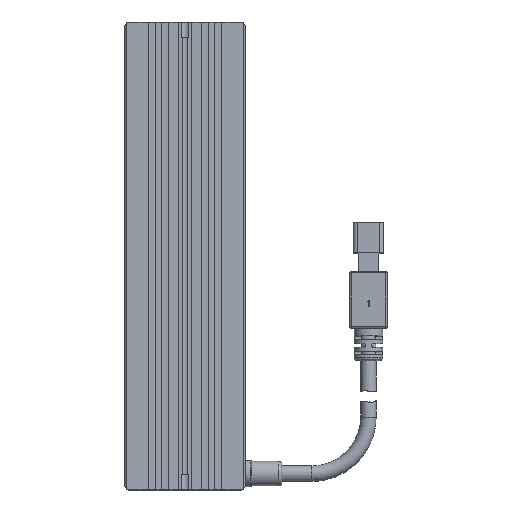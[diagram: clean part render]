
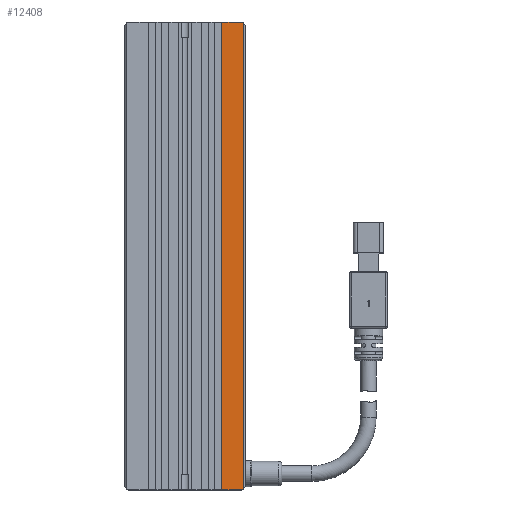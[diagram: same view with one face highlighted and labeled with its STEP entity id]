
A CAD part, top view. The second image highlights one B-rep face of the part: STEP entity #12408.
In plain terms, the highlighted planar face has unit normal (0, 0, 1).
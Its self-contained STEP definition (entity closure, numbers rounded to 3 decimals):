
#37 = CARTESIAN_POINT ( 'NONE',  ( 15.5, 61.5, 12.5 ) ) ;
#322 = DIRECTION ( 'NONE',  ( -0.707, 0.707, 0. ) ) ;
#865 = VECTOR ( 'NONE', #14309, 1000. ) ;
#1064 = LINE ( 'NONE', #14163, #10261 ) ;
#1087 = DIRECTION ( 'NONE',  ( 1., 0., 0. ) ) ;
#1899 = ORIENTED_EDGE ( 'NONE', *, *, #3628, .T. ) ;
#2357 = CARTESIAN_POINT ( 'NONE',  ( 15.5, -61.5, 12.5 ) ) ;
#2493 = EDGE_CURVE ( 'NONE', #13990, #11054, #1064, .T. ) ;
#3160 = FACE_OUTER_BOUND ( 'NONE', #18689, .T. ) ;
#3248 = CARTESIAN_POINT ( 'NONE',  ( 15., -62., 12.5 ) ) ;
#3410 = VERTEX_POINT ( 'NONE', #13766 ) ;
#3628 = EDGE_CURVE ( 'NONE', #13990, #18487, #12618, .T. ) ;
#3654 = LINE ( 'NONE', #7761, #15934 ) ;
#4851 = DIRECTION ( 'NONE',  ( -1., 0., 0. ) ) ;
#4888 = EDGE_CURVE ( 'NONE', #10251, #18487, #15777, .T. ) ;
#5164 = CARTESIAN_POINT ( 'NONE',  ( 15.5, 62., 12.5 ) ) ;
#5599 = CARTESIAN_POINT ( 'NONE',  ( 15.5, -62., 12.5 ) ) ;
#5602 = DIRECTION ( 'NONE',  ( 1., 0., 0. ) ) ;
#5604 = ORIENTED_EDGE ( 'NONE', *, *, #12170, .T. ) ;
#7568 = ORIENTED_EDGE ( 'NONE', *, *, #15801, .T. ) ;
#7653 = CARTESIAN_POINT ( 'NONE',  ( 15., 62., 12.5 ) ) ;
#7761 = CARTESIAN_POINT ( 'NONE',  ( 9.7, 62., 12.5 ) ) ;
#7936 = ORIENTED_EDGE ( 'NONE', *, *, #2493, .F. ) ;
#8067 = VERTEX_POINT ( 'NONE', #3248 ) ;
#8853 = ORIENTED_EDGE ( 'NONE', *, *, #13366, .T. ) ;
#8995 = CARTESIAN_POINT ( 'NONE',  ( 15.5, 62., 12.5 ) ) ;
#9207 = DIRECTION ( 'NONE',  ( 0., -1., 0. ) ) ;
#9268 = VECTOR ( 'NONE', #322, 1000. ) ;
#9635 = DIRECTION ( 'NONE',  ( 0., -1., 0. ) ) ;
#10251 = VERTEX_POINT ( 'NONE', #18749 ) ;
#10261 = VECTOR ( 'NONE', #9635, 1000. ) ;
#10965 = ORIENTED_EDGE ( 'NONE', *, *, #4888, .F. ) ;
#11000 = CARTESIAN_POINT ( 'NONE',  ( 15., 62., 12.5 ) ) ;
#11054 = VERTEX_POINT ( 'NONE', #2357 ) ;
#11182 = CARTESIAN_POINT ( 'NONE',  ( 16., -61., 12.5 ) ) ;
#12054 = DIRECTION ( 'NONE',  ( 0., 0., -1. ) ) ;
#12170 = EDGE_CURVE ( 'NONE', #10251, #3410, #3654, .T. ) ;
#12408 = ADVANCED_FACE ( 'NONE', ( #3160 ), #13494, .F. ) ;
#12618 = LINE ( 'NONE', #7653, #9268 ) ;
#13366 = EDGE_CURVE ( 'NONE', #3410, #8067, #14871, .T. ) ;
#13494 = PLANE ( 'NONE',  #15649 ) ;
#13658 = VECTOR ( 'NONE', #1087, 1000. ) ;
#13766 = CARTESIAN_POINT ( 'NONE',  ( 9.7, -62., 12.5 ) ) ;
#13823 = LINE ( 'NONE', #11182, #865 ) ;
#13990 = VERTEX_POINT ( 'NONE', #37 ) ;
#14124 = VECTOR ( 'NONE', #5602, 1000. ) ;
#14163 = CARTESIAN_POINT ( 'NONE',  ( 15.5, 62., 12.5 ) ) ;
#14309 = DIRECTION ( 'NONE',  ( 0.707, 0.707, 0. ) ) ;
#14871 = LINE ( 'NONE', #5599, #13658 ) ;
#15649 = AXIS2_PLACEMENT_3D ( 'NONE', #8995, #12054, #4851 ) ;
#15777 = LINE ( 'NONE', #5164, #14124 ) ;
#15801 = EDGE_CURVE ( 'NONE', #8067, #11054, #13823, .T. ) ;
#15934 = VECTOR ( 'NONE', #9207, 1000. ) ;
#18487 = VERTEX_POINT ( 'NONE', #11000 ) ;
#18689 = EDGE_LOOP ( 'NONE', ( #7936, #1899, #10965, #5604, #8853, #7568 ) ) ;
#18749 = CARTESIAN_POINT ( 'NONE',  ( 9.7, 62., 12.5 ) ) ;
